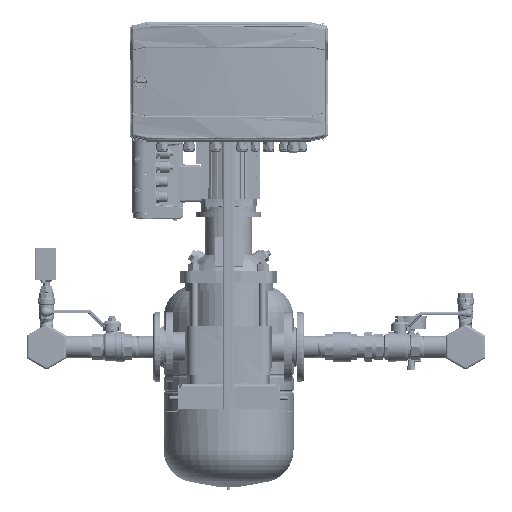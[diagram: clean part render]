
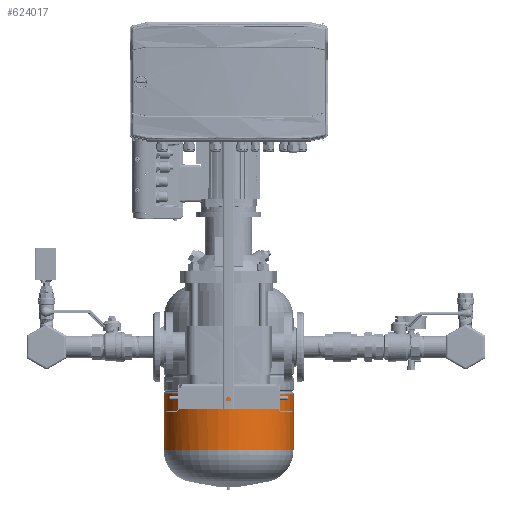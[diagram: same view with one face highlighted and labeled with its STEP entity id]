
A CAD part, left-side view. The second image highlights one B-rep face of the part: STEP entity #624017.
In plain terms, the highlighted cylindrical face has radius 140 mm (diameter 280 mm), a partial arc.
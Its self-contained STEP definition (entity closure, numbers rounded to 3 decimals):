
#617126=CARTESIAN_POINT('Vertex',(-140.,0.,-20.533)) ;
#617129=CARTESIAN_POINT('Axis2P3D Location',(0.,0.,-20.533)) ;
#617133=CARTESIAN_POINT('Vertex',(0.,-140.,-20.533)) ;
#617188=CARTESIAN_POINT('Vertex',(0.,140.,-20.533)) ;
#617191=CARTESIAN_POINT('Axis2P3D Location',(0.,0.,-20.533)) ;
#623932=CARTESIAN_POINT('Axis2P3D Location',(0.,0.,-85.867)) ;
#623937=CARTESIAN_POINT('Line Origine',(0.,140.,-85.867)) ;
#623941=CARTESIAN_POINT('Vertex',(0.,140.,-142.492)) ;
#623944=CARTESIAN_POINT('Line Origine',(0.,-140.,-85.867)) ;
#623948=CARTESIAN_POINT('Vertex',(0.,-140.,-142.492)) ;
#623986=CARTESIAN_POINT('Control Point',(-140.,0.,-142.492)) ;
#623987=CARTESIAN_POINT('Control Point',(-140.,21.991,-142.492)) ;
#623988=CARTESIAN_POINT('Control Point',(-135.682,43.982,-142.492)) ;
#623989=CARTESIAN_POINT('Control Point',(-127.042,64.842,-142.492)) ;
#623990=CARTESIAN_POINT('Control Point',(-102.048,102.048,-142.492)) ;
#623991=CARTESIAN_POINT('Control Point',(-64.842,127.042,-142.492)) ;
#623992=CARTESIAN_POINT('Control Point',(-43.982,135.682,-142.492)) ;
#623993=CARTESIAN_POINT('Control Point',(-21.991,140.,-142.492)) ;
#623994=CARTESIAN_POINT('Control Point',(0.,140.,-142.492)) ;
#623995=CARTESIAN_POINT('Vertex',(-140.,0.,-142.492)) ;
#623999=CARTESIAN_POINT('Control Point',(0.,-140.,-142.492)) ;
#624000=CARTESIAN_POINT('Control Point',(-21.991,-140.,-142.492)) ;
#624001=CARTESIAN_POINT('Control Point',(-43.982,-135.682,-142.492)) ;
#624002=CARTESIAN_POINT('Control Point',(-64.842,-127.042,-142.492)) ;
#624003=CARTESIAN_POINT('Control Point',(-102.048,-102.048,-142.492)) ;
#624004=CARTESIAN_POINT('Control Point',(-127.042,-64.842,-142.492)) ;
#624005=CARTESIAN_POINT('Control Point',(-135.682,-43.982,-142.492)) ;
#624006=CARTESIAN_POINT('Control Point',(-140.,-21.991,-142.492)) ;
#624007=CARTESIAN_POINT('Control Point',(-140.,0.,-142.492)) ;
#623939=VECTOR('Line Direction',#623938,1.) ;
#623946=VECTOR('Line Direction',#623945,1.) ;
#617130=DIRECTION('Axis2P3D Direction',(0.,0.,-1.)) ;
#617192=DIRECTION('Axis2P3D Direction',(0.,0.,-1.)) ;
#623933=DIRECTION('Axis2P3D Direction',(0.,0.,-1.)) ;
#623934=DIRECTION('Axis2P3D XDirection',(0.,-1.,0.)) ;
#623938=DIRECTION('Vector Direction',(0.,0.,-1.)) ;
#623945=DIRECTION('Vector Direction',(0.,0.,-1.)) ;
#617131=AXIS2_PLACEMENT_3D('Circle Axis2P3D',#617129,#617130,$) ;
#617193=AXIS2_PLACEMENT_3D('Circle Axis2P3D',#617191,#617192,$) ;
#623935=AXIS2_PLACEMENT_3D('Cylinder Axis2P3D',#623932,#623933,#623934) ;
#623940=LINE('Line',#623937,#623939) ;
#623947=LINE('Line',#623944,#623946) ;
#617132=CIRCLE('generated circle',#617131,140.) ;
#617194=CIRCLE('generated circle',#617193,140.) ;
#623936=CYLINDRICAL_SURFACE('generated cylinder',#623935,140.) ;
#617135=EDGE_CURVE('',#617127,#617134,#617132,.F.) ;
#617195=EDGE_CURVE('',#617189,#617127,#617194,.F.) ;
#623943=EDGE_CURVE('',#617189,#623942,#623940,.T.) ;
#623950=EDGE_CURVE('',#623949,#617134,#623947,.F.) ;
#623997=EDGE_CURVE('',#623996,#623942,#623985,.T.) ;
#624008=EDGE_CURVE('',#623949,#623996,#623998,.T.) ;
#624010=ORIENTED_EDGE('',*,*,#623950,.T.) ;
#624011=ORIENTED_EDGE('',*,*,#617135,.F.) ;
#624012=ORIENTED_EDGE('',*,*,#617195,.F.) ;
#624013=ORIENTED_EDGE('',*,*,#623943,.T.) ;
#624014=ORIENTED_EDGE('',*,*,#623997,.F.) ;
#624015=ORIENTED_EDGE('',*,*,#624008,.F.) ;
#624009=EDGE_LOOP('',(#624010,#624011,#624012,#624013,#624014,#624015)) ;
#617127=VERTEX_POINT('',#617126) ;
#617134=VERTEX_POINT('',#617133) ;
#617189=VERTEX_POINT('',#617188) ;
#623942=VERTEX_POINT('',#623941) ;
#623949=VERTEX_POINT('',#623948) ;
#623996=VERTEX_POINT('',#623995) ;
#624017=ADVANCED_FACE('MANIFOLD_SOLID_BREP #40',(#624016),#623936,.T.) ;
#623985=B_SPLINE_CURVE_WITH_KNOTS('',5,(#623986,#623987,#623988,#623989,#623990,#623991,#623992,#623993,#623994),.UNSPECIFIED.,.F.,.U.,(6,3,6),(0.,109.956,219.911),.UNSPECIFIED.) ;
#623998=B_SPLINE_CURVE_WITH_KNOTS('',5,(#623999,#624000,#624001,#624002,#624003,#624004,#624005,#624006,#624007),.UNSPECIFIED.,.F.,.U.,(6,3,6),(-219.911,-109.956,0.),.UNSPECIFIED.) ;
#624016=FACE_OUTER_BOUND('',#624009,.T.) ;
